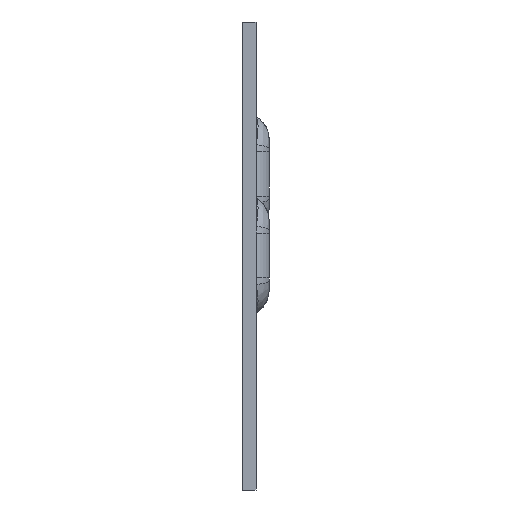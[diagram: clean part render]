
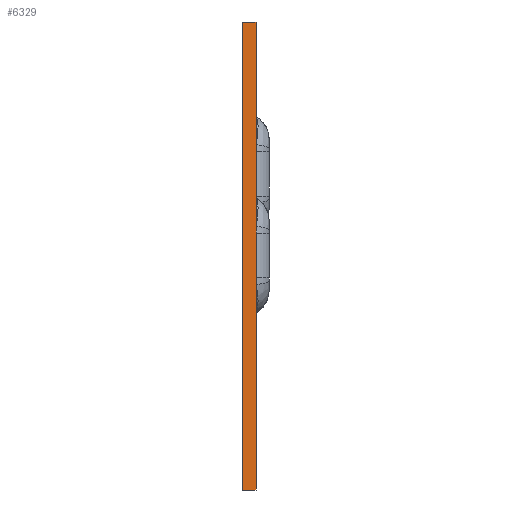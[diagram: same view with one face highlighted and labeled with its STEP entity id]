
A CAD part, left-side view. The second image highlights one B-rep face of the part: STEP entity #6329.
In plain terms, the highlighted planar face has unit normal (-1, 0, 0).
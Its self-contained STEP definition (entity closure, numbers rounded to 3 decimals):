
#246=DIRECTION('',(0.,0.,-1.));
#247=VECTOR('',#246,71.);
#248=CARTESIAN_POINT('',(-138.,0.,35.5));
#249=LINE('',#248,#247);
#1616=DIRECTION('',(0.,-1.,0.));
#1617=VECTOR('',#1616,2.);
#1618=CARTESIAN_POINT('',(-138.,0.,-35.5));
#1619=LINE('',#1618,#1617);
#1644=DIRECTION('',(0.,-1.,0.));
#1645=VECTOR('',#1644,2.);
#1646=CARTESIAN_POINT('',(-138.,0.,35.5));
#1647=LINE('',#1646,#1645);
#1651=DIRECTION('',(0.,0.,-1.));
#1652=VECTOR('',#1651,71.);
#1653=CARTESIAN_POINT('',(-138.,-2.,35.5));
#1654=LINE('',#1653,#1652);
#5394=CARTESIAN_POINT('',(-138.,0.,35.5));
#5395=CARTESIAN_POINT('',(-138.,0.,-35.5));
#5396=VERTEX_POINT('',#5394);
#5397=VERTEX_POINT('',#5395);
#5398=CARTESIAN_POINT('',(-138.,-2.,-35.5));
#5399=VERTEX_POINT('',#5398);
#5400=CARTESIAN_POINT('',(-138.,-2.,35.5));
#5401=VERTEX_POINT('',#5400);
#6317=CARTESIAN_POINT('',(-138.,-1.,0.));
#6318=DIRECTION('',(-1.,0.,0.));
#6319=DIRECTION('',(0.,0.,1.));
#6320=AXIS2_PLACEMENT_3D('',#6317,#6318,#6319);
#6321=PLANE('',#6320);
#6322=ORIENTED_EDGE('',*,*,#5646,.F.);
#6324=ORIENTED_EDGE('',*,*,#6323,.T.);
#6325=ORIENTED_EDGE('',*,*,#5907,.T.);
#6326=ORIENTED_EDGE('',*,*,#6261,.F.);
#6327=EDGE_LOOP('',(#6322,#6324,#6325,#6326));
#6328=FACE_OUTER_BOUND('',#6327,.F.);
#5646=EDGE_CURVE('',#5396,#5397,#249,.T.);
#5907=EDGE_CURVE('',#5401,#5399,#1654,.T.);
#6261=EDGE_CURVE('',#5397,#5399,#1619,.T.);
#6323=EDGE_CURVE('',#5396,#5401,#1647,.T.);
#6329=ADVANCED_FACE('',(#6328),#6321,.T.);
